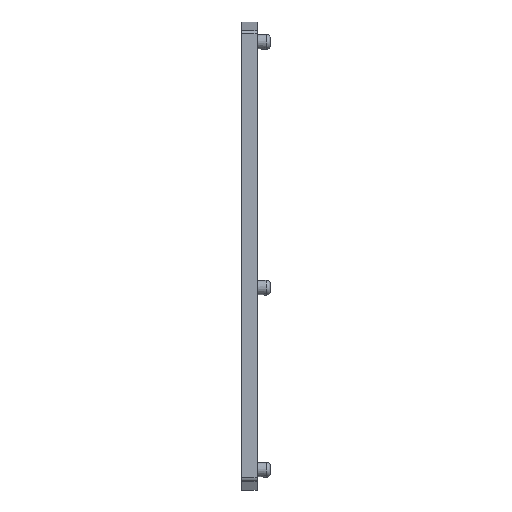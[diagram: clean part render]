
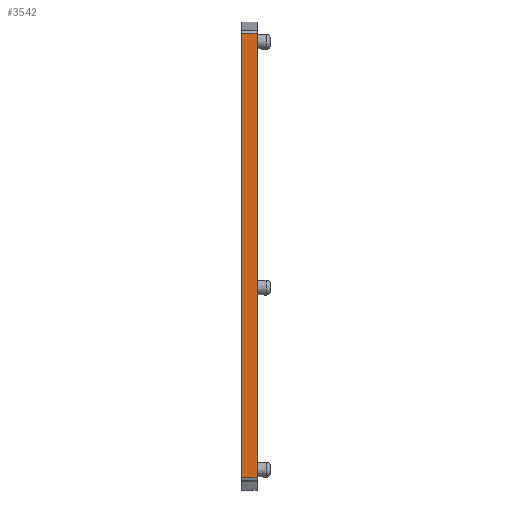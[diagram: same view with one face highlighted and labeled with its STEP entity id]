
A CAD part, top view. The second image highlights one B-rep face of the part: STEP entity #3542.
In plain terms, the highlighted planar face has unit normal (0, 0, 1).
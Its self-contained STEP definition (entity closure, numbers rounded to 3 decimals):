
#3542 = ADVANCED_FACE('',(#3543),#3557,.F.);
#3543 = FACE_BOUND('',#3544,.T.);
#3544 = EDGE_LOOP('',(#3545,#3568,#3584,#3600));
#3545 = ORIENTED_EDGE('',*,*,#3546,.T.);
#3546 = EDGE_CURVE('',#3547,#3549,#3551,.T.);
#3547 = VERTEX_POINT('',#3548);
#3548 = CARTESIAN_POINT('',(1.575,-30.339,
    48.7));
#3549 = VERTEX_POINT('',#3550);
#3550 = CARTESIAN_POINT('',(1.575,33.983,
    48.7));
#3551 = SURFACE_CURVE('',#3552,(#3556),.PCURVE_S1.);
#3552 = LINE('',#3553,#3554);
#3553 = CARTESIAN_POINT('',(1.575,-30.342,
    48.7));
#3554 = VECTOR('',#3555,1.);
#3555 = DIRECTION('',(0.,1.,0.));
#3556 = PCURVE('',#3557,#3562);
#3557 = PLANE('',#3558);
#3558 = AXIS2_PLACEMENT_3D('',#3559,#3560,#3561);
#3559 = CARTESIAN_POINT('',(-0.625,-30.342,
    48.7));
#3560 = DIRECTION('',(0.,0.,-1.));
#3561 = DIRECTION('',(0.,1.,0.));
#3562 = DEFINITIONAL_REPRESENTATION('',(#3563),#3567);
#3563 = LINE('',#3564,#3565);
#3564 = CARTESIAN_POINT('',(0.,2.2));
#3565 = VECTOR('',#3566,1.);
#3566 = DIRECTION('',(1.,0.));
#3567 = ( GEOMETRIC_REPRESENTATION_CONTEXT(2) 
PARAMETRIC_REPRESENTATION_CONTEXT() REPRESENTATION_CONTEXT('2D SPACE',''
  ) );
#3568 = ORIENTED_EDGE('',*,*,#3569,.F.);
#3569 = EDGE_CURVE('',#3570,#3549,#3572,.T.);
#3570 = VERTEX_POINT('',#3571);
#3571 = CARTESIAN_POINT('',(-0.625,33.983,
    48.7));
#3572 = SURFACE_CURVE('',#3573,(#3577),.PCURVE_S1.);
#3573 = LINE('',#3574,#3575);
#3574 = CARTESIAN_POINT('',(-0.625,33.983,
    48.7));
#3575 = VECTOR('',#3576,1.);
#3576 = DIRECTION('',(1.,0.,0.));
#3577 = PCURVE('',#3557,#3578);
#3578 = DEFINITIONAL_REPRESENTATION('',(#3579),#3583);
#3579 = LINE('',#3580,#3581);
#3580 = CARTESIAN_POINT('',(64.325,0.));
#3581 = VECTOR('',#3582,1.);
#3582 = DIRECTION('',(0.,1.));
#3583 = ( GEOMETRIC_REPRESENTATION_CONTEXT(2) 
PARAMETRIC_REPRESENTATION_CONTEXT() REPRESENTATION_CONTEXT('2D SPACE',''
  ) );
#3584 = ORIENTED_EDGE('',*,*,#3585,.F.);
#3585 = EDGE_CURVE('',#3586,#3570,#3588,.T.);
#3586 = VERTEX_POINT('',#3587);
#3587 = CARTESIAN_POINT('',(-0.625,-30.339,
    48.7));
#3588 = SURFACE_CURVE('',#3589,(#3593),.PCURVE_S1.);
#3589 = LINE('',#3590,#3591);
#3590 = CARTESIAN_POINT('',(-0.625,-30.342,
    48.7));
#3591 = VECTOR('',#3592,1.);
#3592 = DIRECTION('',(0.,1.,0.));
#3593 = PCURVE('',#3557,#3594);
#3594 = DEFINITIONAL_REPRESENTATION('',(#3595),#3599);
#3595 = LINE('',#3596,#3597);
#3596 = CARTESIAN_POINT('',(0.,0.));
#3597 = VECTOR('',#3598,1.);
#3598 = DIRECTION('',(1.,0.));
#3599 = ( GEOMETRIC_REPRESENTATION_CONTEXT(2) 
PARAMETRIC_REPRESENTATION_CONTEXT() REPRESENTATION_CONTEXT('2D SPACE',''
  ) );
#3600 = ORIENTED_EDGE('',*,*,#3601,.T.);
#3601 = EDGE_CURVE('',#3586,#3547,#3602,.T.);
#3602 = SURFACE_CURVE('',#3603,(#3607),.PCURVE_S1.);
#3603 = LINE('',#3604,#3605);
#3604 = CARTESIAN_POINT('',(-0.625,-30.339,
    48.7));
#3605 = VECTOR('',#3606,1.);
#3606 = DIRECTION('',(1.,0.,0.));
#3607 = PCURVE('',#3557,#3608);
#3608 = DEFINITIONAL_REPRESENTATION('',(#3609),#3613);
#3609 = LINE('',#3610,#3611);
#3610 = CARTESIAN_POINT('',(0.004,0.));
#3611 = VECTOR('',#3612,1.);
#3612 = DIRECTION('',(0.,1.));
#3613 = ( GEOMETRIC_REPRESENTATION_CONTEXT(2) 
PARAMETRIC_REPRESENTATION_CONTEXT() REPRESENTATION_CONTEXT('2D SPACE',''
  ) );
